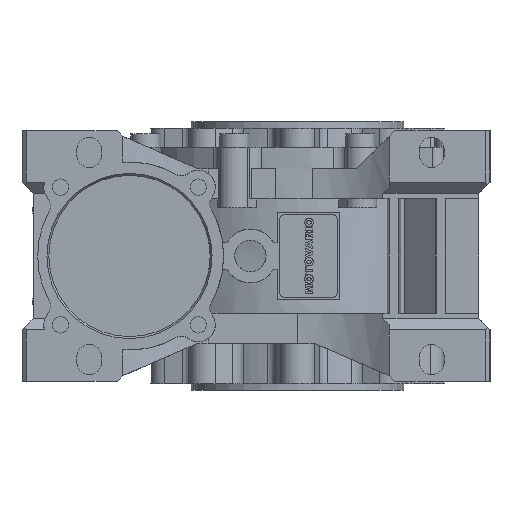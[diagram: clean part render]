
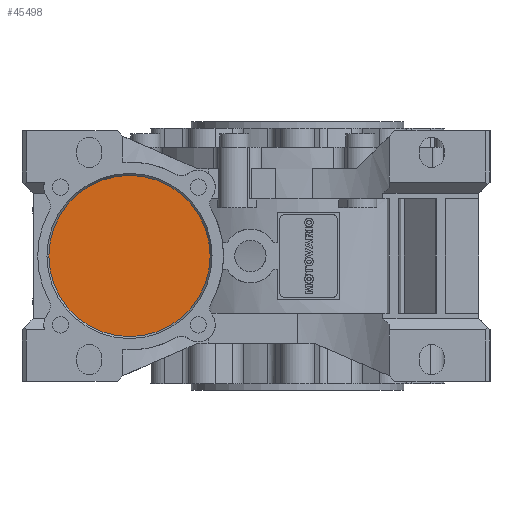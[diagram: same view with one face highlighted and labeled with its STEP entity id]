
A CAD part, left-side view. The second image highlights one B-rep face of the part: STEP entity #45498.
In plain terms, the highlighted planar face has unit normal (-1, 0, 0) as drawn and (0, 0, -1) by its records, which use the part's own axes.
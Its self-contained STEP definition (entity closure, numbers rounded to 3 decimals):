
#653=PLANE('',#48131);
#7911=CIRCLE('',#48130,36.);
#12784=ORIENTED_EDGE('',*,*,#20962,.F.);
#20962=EDGE_CURVE('',#25238,#25238,#7911,.T.);
#25238=VERTEX_POINT('',#65658);
#27707=EDGE_LOOP('',(#12784));
#29902=FACE_BOUND('',#27707,.T.);
#45498=ADVANCED_FACE('',(#29902),#653,.T.);
#48130=AXIS2_PLACEMENT_3D('',#65657,#54521,#54522);
#48131=AXIS2_PLACEMENT_3D('',#65659,#54523,#54524);
#54521=DIRECTION('',(0.,0.,1.));
#54522=DIRECTION('',(1.,0.,0.));
#54523=DIRECTION('',(0.,0.,-1.));
#54524=DIRECTION('',(-1.,0.,0.));
#65657=CARTESIAN_POINT('',(0.,75.,-87.5));
#65658=CARTESIAN_POINT('',(36.,75.,-87.5));
#65659=CARTESIAN_POINT('',(36.,75.,-87.5));
